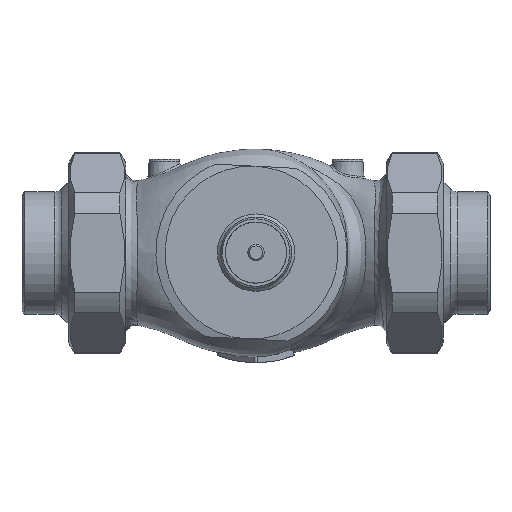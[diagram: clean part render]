
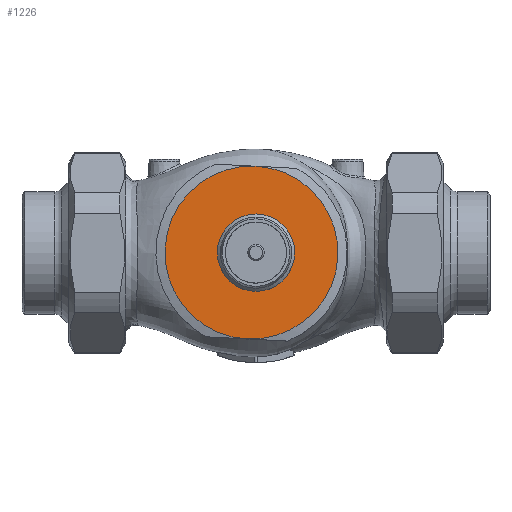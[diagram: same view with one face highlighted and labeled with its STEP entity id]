
A CAD part, top view. The second image highlights one B-rep face of the part: STEP entity #1226.
In plain terms, the highlighted planar face has unit normal (0, 0, 1).
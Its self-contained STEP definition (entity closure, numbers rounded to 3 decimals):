
#764=PLANE('',#9030);
#1014=FACE_BOUND('',#2519,.T.);
#1015=FACE_BOUND('',#2520,.T.);
#1226=ADVANCED_FACE('',(#1014,#1015),#764,.T.);
#2519=EDGE_LOOP('',(#3927));
#2520=EDGE_LOOP('',(#3928,#3929));
#3101=CIRCLE('',#9027,19.);
#3102=CIRCLE('',#9028,42.5);
#3103=CIRCLE('',#9029,42.5);
#3927=ORIENTED_EDGE('',*,*,#7045,.T.);
#3928=ORIENTED_EDGE('',*,*,#7046,.T.);
#3929=ORIENTED_EDGE('',*,*,#7047,.T.);
#6173=VERTEX_POINT('',#22016);
#6178=VERTEX_POINT('',#22040);
#6181=VERTEX_POINT('',#22058);
#7045=EDGE_CURVE('',#6181,#6181,#3101,.T.);
#7046=EDGE_CURVE('',#6178,#6173,#3102,.T.);
#7047=EDGE_CURVE('',#6173,#6178,#3103,.T.);
#9027=AXIS2_PLACEMENT_3D('',#22057,#10255,#10256);
#9028=AXIS2_PLACEMENT_3D('',#22059,#10257,#10258);
#9029=AXIS2_PLACEMENT_3D('',#22060,#10259,#10260);
#9030=AXIS2_PLACEMENT_3D('',#22061,#10261,#10262);
#10255=DIRECTION('',(0.,0.,-1.));
#10256=DIRECTION('',(0.,1.,0.));
#10257=DIRECTION('',(0.,0.,1.));
#10258=DIRECTION('',(-0.999,0.052,0.));
#10259=DIRECTION('',(0.,0.,1.));
#10260=DIRECTION('',(-0.999,0.052,0.));
#10261=DIRECTION('',(0.,0.,1.));
#10262=DIRECTION('',(-0.999,0.052,0.));
#22016=CARTESIAN_POINT('',(-4.451,-42.383,67.));
#22040=CARTESIAN_POINT('',(0.,42.5,67.));
#22057=CARTESIAN_POINT('',(0.,0.,67.));
#22058=CARTESIAN_POINT('',(0.,19.,67.));
#22059=CARTESIAN_POINT('',(-2.226,0.058,67.));
#22060=CARTESIAN_POINT('',(-2.226,0.058,67.));
#22061=CARTESIAN_POINT('',(-32.684,1.656,67.));
